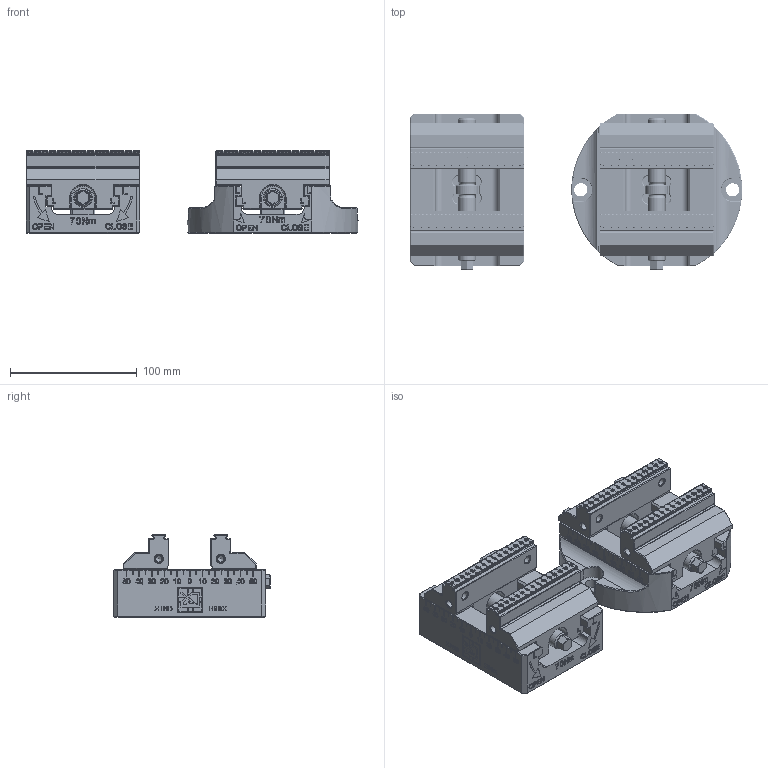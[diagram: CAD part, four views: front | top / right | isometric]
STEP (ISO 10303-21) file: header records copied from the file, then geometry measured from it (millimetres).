
FILE_DESCRIPTION(/* description */ (''),/* implementation_level */ '2;1');
FILE_NAME(/* name */ 'H90X',/* time_stamp */ '2025-11-14T11:34:59+08:00',/* author */ (''),/* organization */ (''),/* preprocessor_version */ 'ST-DEVELOPER v11',/* originating_system */ 'SIEMENS PLM Software NX 7.0',/* authorisation */ '');
FILE_SCHEMA (('CONFIG_CONTROL_DESIGN'));
Products named in the file (1): Admi7216p6ch
Bounding box: 262.41 x 123.5 x 65 mm (x, y, z)
Volume: 901283.1 mm3; surface area: 192551 mm2
Topology: 10 solids, 10 shells, 5586 faces, 14306 edges, 9338 vertices
Faces by surface type: plane 3932, extrusion 646, cylinder 586, cone 392, torus 24, bspline 6
Full cylindrical faces by diameter (mm): 5 x24, 6 x18, 6.7 x8, 8 x16, 8.5 x2, 10.5 x2, 12 x8, 12.6 x4, 14 x14, 18 x2
Entity records: 184615 total; most frequent: CARTESIAN_POINT 53226, ORIENTED_EDGE 27996, DIRECTION 23932, EDGE_CURVE 13998, VECTOR 10898, LINE 10252, VERTEX_POINT 9248, AXIS2_PLACEMENT_3D 6517
